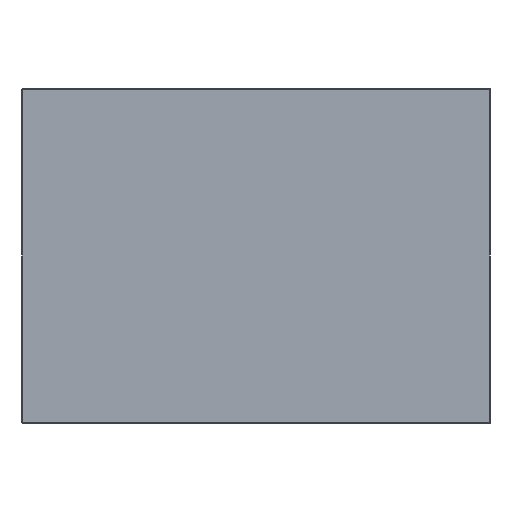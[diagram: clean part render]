
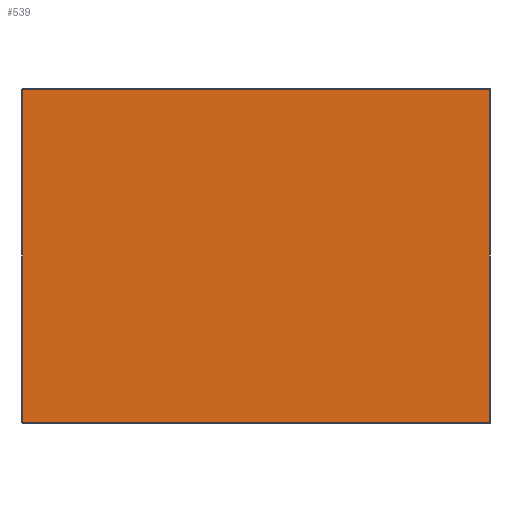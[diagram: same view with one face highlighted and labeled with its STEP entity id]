
A CAD part, left-side view. The second image highlights one B-rep face of the part: STEP entity #539.
In plain terms, the highlighted planar face has unit normal (-1, 0, 0).
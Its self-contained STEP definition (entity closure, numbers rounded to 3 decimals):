
#37=PLANE('',#590);
#41=LINE('',#773,#97);
#48=LINE('',#803,#104);
#52=LINE('',#809,#108);
#57=LINE('',#818,#113);
#97=VECTOR('',#620,699.);
#104=VECTOR('',#653,699.);
#108=VECTOR('',#661,498.);
#113=VECTOR('',#674,498.);
#190=FACE_OUTER_BOUND('',#226,.T.);
#226=EDGE_LOOP('',(#496,#497,#498,#499));
#251=VERTEX_POINT('',#766);
#253=VERTEX_POINT('',#771);
#259=VERTEX_POINT('',#792);
#262=VERTEX_POINT('',#799);
#298=EDGE_CURVE('',#253,#251,#41,.T.);
#313=EDGE_CURVE('',#259,#262,#48,.T.);
#317=EDGE_CURVE('',#251,#259,#52,.T.);
#322=EDGE_CURVE('',#253,#262,#57,.T.);
#496=ORIENTED_EDGE('',*,*,#298,.F.);
#497=ORIENTED_EDGE('',*,*,#322,.T.);
#498=ORIENTED_EDGE('',*,*,#313,.F.);
#499=ORIENTED_EDGE('',*,*,#317,.F.);
#539=ADVANCED_FACE('',(#190),#37,.T.);
#590=AXIS2_PLACEMENT_3D('',#896,#744,#745);
#620=DIRECTION('',(0.,1.,0.));
#653=DIRECTION('',(0.,-1.,0.));
#661=DIRECTION('',(0.,0.,1.));
#674=DIRECTION('',(0.,0.,1.));
#744=DIRECTION('center_axis',(-1.,0.,0.));
#745=DIRECTION('ref_axis',(0.,0.,1.));
#766=CARTESIAN_POINT('',(0.,699.,-499.));
#771=CARTESIAN_POINT('',(0.,0.,-499.));
#773=CARTESIAN_POINT('',(0.,0.,-499.));
#792=CARTESIAN_POINT('',(0.,699.,-1.));
#799=CARTESIAN_POINT('',(0.,0.,-1.));
#803=CARTESIAN_POINT('',(0.,0.,-1.));
#809=CARTESIAN_POINT('',(0.,699.,-375.));
#818=CARTESIAN_POINT('',(0.,0.,-500.));
#896=CARTESIAN_POINT('Origin',(0.,0.,-500.));
